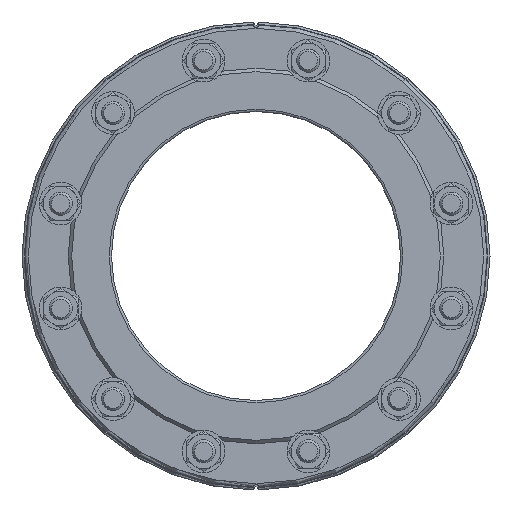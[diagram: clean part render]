
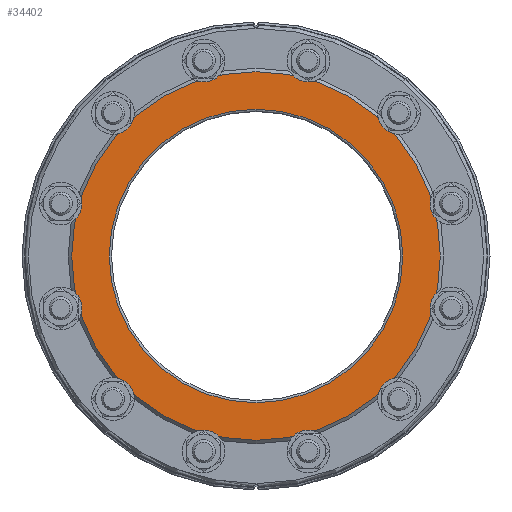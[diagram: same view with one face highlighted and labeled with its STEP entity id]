
A CAD part, left-side view. The second image highlights one B-rep face of the part: STEP entity #34402.
In plain terms, the highlighted planar face has unit normal (-1, 0, 0).
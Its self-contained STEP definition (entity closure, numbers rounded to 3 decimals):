
#684 = DIRECTION ( 'NONE',  ( 0., -1., 0. ) ) ;
#1355 = DIRECTION ( 'NONE',  ( 1., 0., 0. ) ) ;
#1370 = CIRCLE ( 'NONE', #36091, 159.5 ) ;
#2379 = EDGE_CURVE ( 'NONE', #13009, #13009, #18323, .T. ) ;
#3708 = ORIENTED_EDGE ( 'NONE', *, *, #2379, .T. ) ;
#7353 = EDGE_LOOP ( 'NONE', ( #9979 ) ) ;
#7805 = EDGE_LOOP ( 'NONE', ( #3708 ) ) ;
#9979 = ORIENTED_EDGE ( 'NONE', *, *, #20366, .T. ) ;
#9988 = CARTESIAN_POINT ( 'NONE',  ( -55., 127., 0. ) ) ;
#13009 = VERTEX_POINT ( 'NONE', #9988 ) ;
#13307 = AXIS2_PLACEMENT_3D ( 'NONE', #24867, #14442, #38991 ) ;
#14442 = DIRECTION ( 'NONE',  ( 1., 0., 0. ) ) ;
#17689 = FACE_OUTER_BOUND ( 'NONE', #7353, .T. ) ;
#18323 = CIRCLE ( 'NONE', #19814, 127. ) ;
#19165 = DIRECTION ( 'NONE',  ( 0., 1., 0. ) ) ;
#19814 = AXIS2_PLACEMENT_3D ( 'NONE', #29363, #1355, #19165 ) ;
#20366 = EDGE_CURVE ( 'NONE', #35564, #35564, #1370, .T. ) ;
#21709 = CARTESIAN_POINT ( 'NONE',  ( -55., 0., 0. ) ) ;
#24867 = CARTESIAN_POINT ( 'NONE',  ( -55., 0., 125. ) ) ;
#28684 = DIRECTION ( 'NONE',  ( -1., 0., 0. ) ) ;
#29363 = CARTESIAN_POINT ( 'NONE',  ( -55., 0., 0. ) ) ;
#32043 = FACE_BOUND ( 'NONE', #7805, .T. ) ;
#34402 = ADVANCED_FACE ( 'NONE', ( #32043, #17689 ), #44833, .F. ) ;
#35564 = VERTEX_POINT ( 'NONE', #36251 ) ;
#36091 = AXIS2_PLACEMENT_3D ( 'NONE', #21709, #28684, #684 ) ;
#36251 = CARTESIAN_POINT ( 'NONE',  ( -55., -159.5, 0. ) ) ;
#38991 = DIRECTION ( 'NONE',  ( 0., 1., 0. ) ) ;
#44833 = PLANE ( 'NONE',  #13307 ) ;
